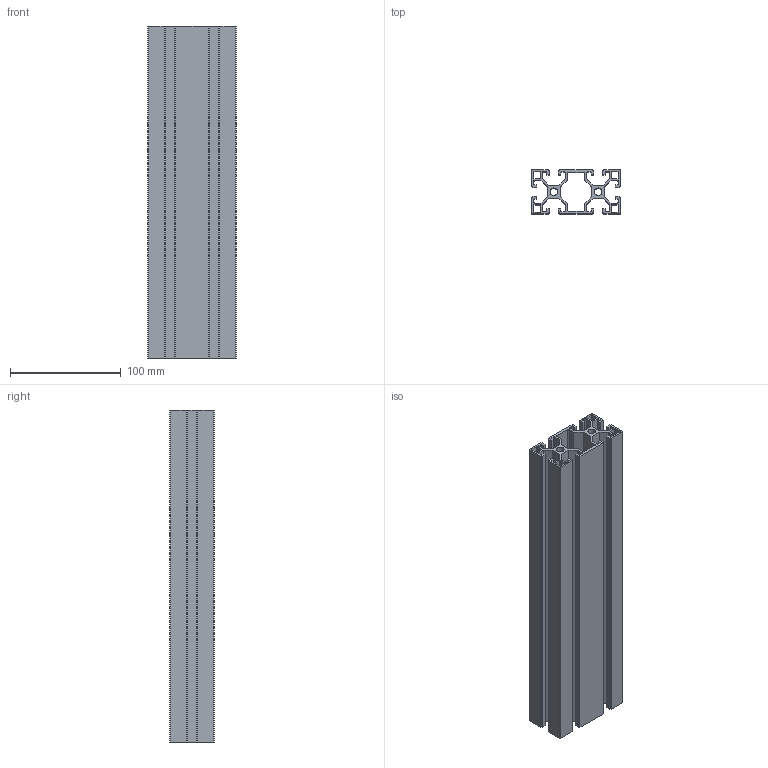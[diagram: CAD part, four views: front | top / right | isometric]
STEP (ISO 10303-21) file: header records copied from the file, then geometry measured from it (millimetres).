
FILE_DESCRIPTION (( 'STEP AP203' ), '1' );
FILE_NAME ('22-CE-4080-8.STEP', '2015-07-07T04:02:25', ( '' ), ( '' ), 'SwSTEP 2.0', 'SolidWorks 2013', '' );
FILE_SCHEMA (( 'CONFIG_CONTROL_DESIGN' ));
Length unit declared in the file: millimetre
Products named in the file (1): 22-CE-4080-8
Bounding box: 80 x 40 x 300 mm (x, y, z)
Volume: 263735.8 mm3; surface area: 249664.7 mm2
Topology: 1 solids, 1 shells, 194 faces, 576 edges, 384 vertices
Faces by surface type: plane 142, cylinder 52
Entity records: 6569 total; most frequent: CARTESIAN_POINT 1155, ORIENTED_EDGE 1152, DIRECTION 1070, EDGE_CURVE 576, VECTOR 472, LINE 472, VERTEX_POINT 384, AXIS2_PLACEMENT_3D 299
